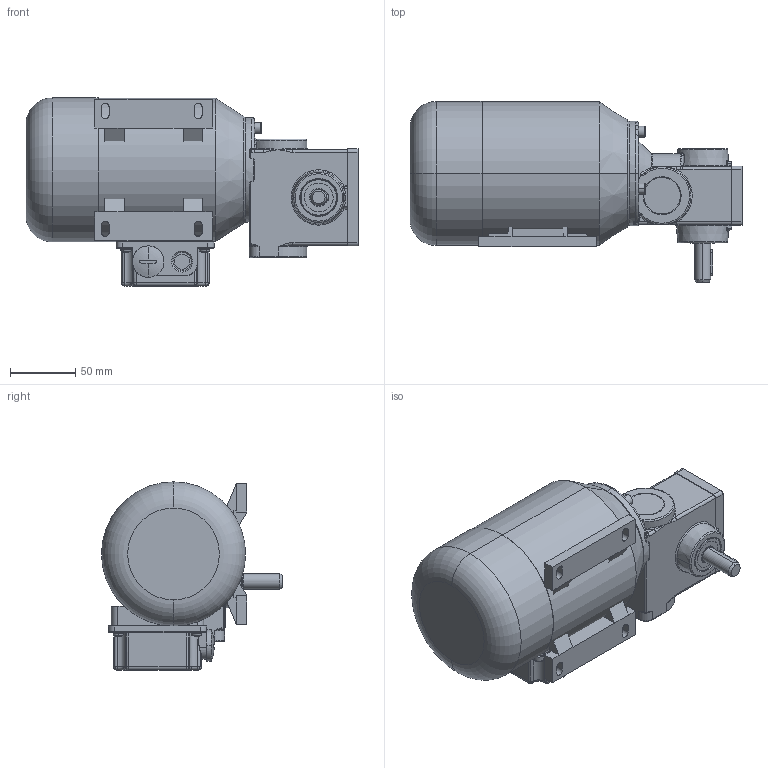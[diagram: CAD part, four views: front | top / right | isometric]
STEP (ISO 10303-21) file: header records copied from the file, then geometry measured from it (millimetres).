
FILE_DESCRIPTION (( 'STEP AP214' ), '1' );
FILE_NAME ('SN6_120W_2800Upm_Drehstrom-Motor_D.STEP', '2021-08-11T06:08:18', ( '' ), ( '' ), 'SwSTEP 2.0', 'SolidWorks 2019', '' );
FILE_SCHEMA (( 'AUTOMOTIVE_DESIGN' ));
Length unit declared in the file: millimetre
Products named in the file (12): NBR_WDR_12x28x7; 06-M-066 I 120W_2800Upm_B3; socket head cap screw_iso_ISO 4762 M5 x 16 - 16C; 06-G-001_3D_Export; K_28x9.0; 06-W-001_3D_Export; SN6_120W_2800Upm_Drehstrom-Motor_D; 06F-D-003_3D-Export; K_28x4.0; socket head cap screw_iso_ISO 4762 M3 x 10 - 10C; SN6_3D_Export; PF_A4x4x20
Assembly tree (17 placements, depth 3):
  SN6_120W_2800Upm_Drehstrom-Motor_D
    SN6_3D_Export
      06-G-001_3D_Export
      06F-D-003_3D-Export
      06-W-001_3D_Export
      PF_A4x4x20
      NBR_WDR_12x28x7
      K_28x9.0
      K_28x4.0  x2
      socket head cap screw_iso_ISO 4762 M5 x 16 - 16C  x3
      socket head cap screw_iso_ISO 4762 M3 x 10 - 10C  x4
    06-M-066 I 120W_2800Upm_B3
Bounding box: 253.5 x 138.2 x 143.7 mm (x, y, z)
Volume: 1964336.8 mm3; surface area: 181560.5 mm2
Topology: 19 solids, 19 shells, 1043 faces, 2551 edges, 1540 vertices
Faces by surface type: plane 324, cylinder 314, torus 169, cone 152, bspline 49, sphere 35
Entity records: 30202 total; most frequent: CARTESIAN_POINT 8101, DIRECTION 4803, ORIENTED_EDGE 4390, EDGE_CURVE 2195, AXIS2_PLACEMENT_3D 1984, VERTEX_POINT 1366, CIRCLE 1111, EDGE_LOOP 973
